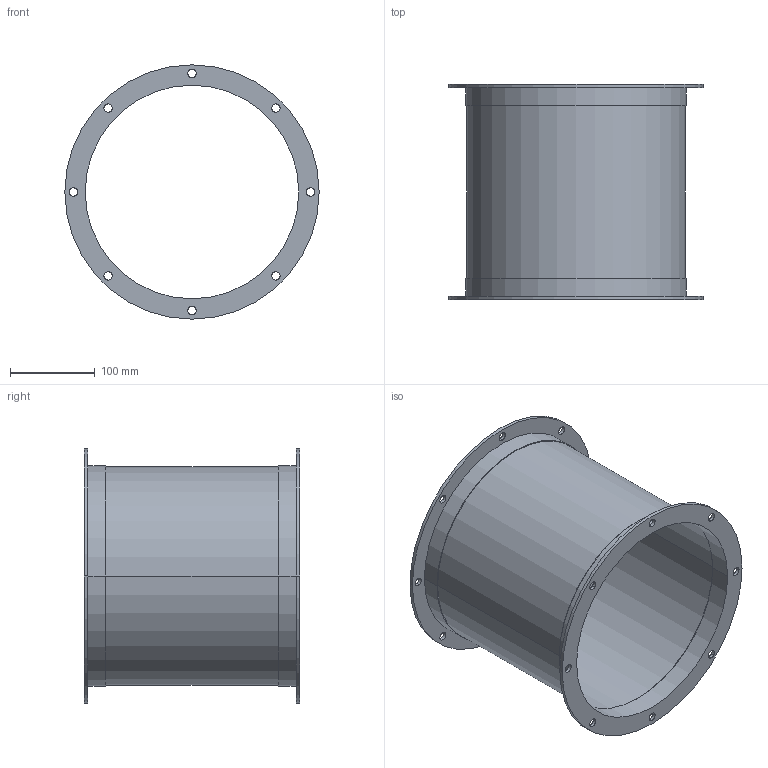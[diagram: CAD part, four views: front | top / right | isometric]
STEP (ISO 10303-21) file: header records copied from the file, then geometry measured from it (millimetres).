
FILE_DESCRIPTION(('STEP AP214'),'1');
FILE_NAME('accessory_5136832200.stp','2017-10-09T08:00:43',('TraceParts'),('TraceParts S.A.'),'Spatial InterOp 3D',' ',' ');
FILE_SCHEMA(('automotive_design'));
Length unit declared in the file: millimetre
Products named in the file (1): accessory_5136832200
Bounding box: 300 x 254 x 300 mm (x, y, z)
Volume: 624699.4 mm3; surface area: 489083.1 mm2
Topology: 1 solids, 1 shells, 56 faces, 144 edges, 96 vertices
Faces by surface type: cylinder 48, plane 8
Entity records: 2296 total; most frequent: DIRECTION 354, CARTESIAN_POINT 297, ORIENTED_EDGE 288, AXIS2_PLACEMENT_3D 153, EDGE_CURVE 144, EDGE_LOOP 96, VERTEX_POINT 96, CIRCLE 96
